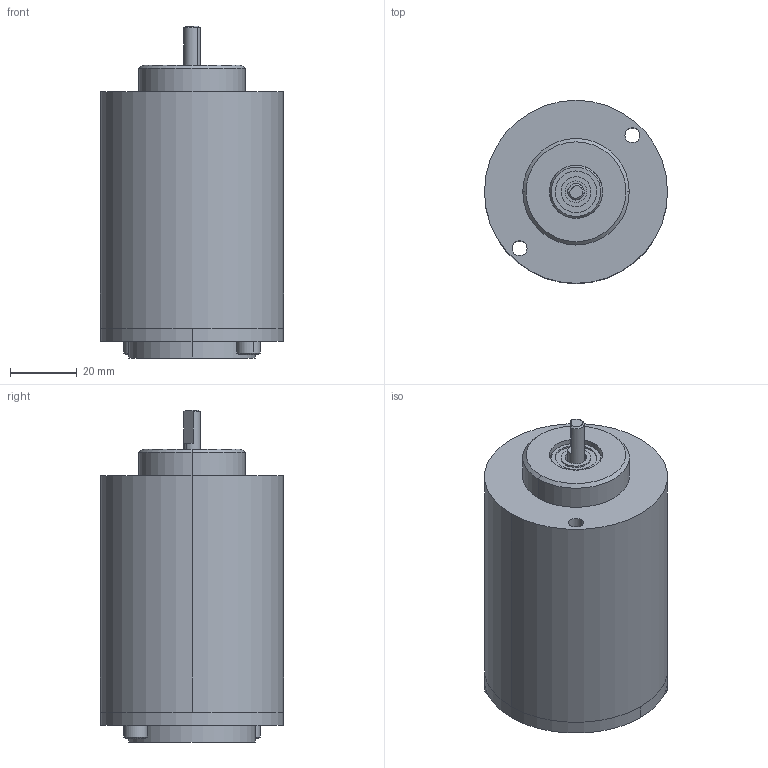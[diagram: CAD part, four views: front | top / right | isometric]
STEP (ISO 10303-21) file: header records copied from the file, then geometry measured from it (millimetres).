
FILE_DESCRIPTION (( 'STEP AP203' ), '1' );
FILE_NAME ('PA100.STEP', '2013-06-28T15:11:04', ( '' ), ( '' ), 'SwSTEP 2.0', 'SolidWorks 2013', '' );
FILE_SCHEMA (( 'CONFIG_CONTROL_DESIGN' ));
Length unit declared in the file: millimetre
Products named in the file (1): PA100
Bounding box: 55 x 55 x 99.75 mm (x, y, z)
Surface area: 24126.3 mm2 (no closed solid volume)
Topology: 0 solids, 6 shells, 86 faces, 276 edges, 199 vertices
Faces by surface type: cylinder 34, plane 32, cone 14, bspline 6
Entity records: 3546 total; most frequent: CARTESIAN_POINT 1018, DIRECTION 518, ORIENTED_EDGE 450, EDGE_CURVE 272, VERTEX_POINT 199, AXIS2_PLACEMENT_3D 195, LINE 128, VECTOR 128
